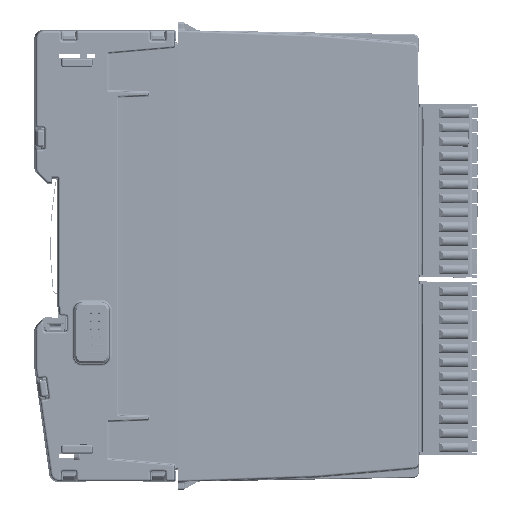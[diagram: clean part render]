
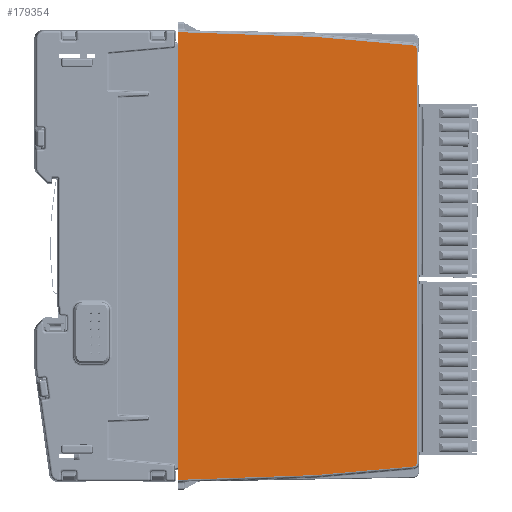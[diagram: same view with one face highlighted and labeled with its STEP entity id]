
A CAD part, left-side view. The second image highlights one B-rep face of the part: STEP entity #179354.
In plain terms, the highlighted planar face has unit normal (-1, -0.018, 0).
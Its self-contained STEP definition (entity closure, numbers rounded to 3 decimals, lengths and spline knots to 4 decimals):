
#16708=FACE_OUTER_BOUND('',#26652,.T.);
#26652=EDGE_LOOP('',(#141504,#141505,#141506,#141507,#141508,#141509,#141510,
#141511,#141512,#141513));
#42749=LINE('',#298390,#60395);
#42750=LINE('',#298392,#60396);
#42751=LINE('',#298394,#60397);
#42752=LINE('',#298396,#60398);
#42753=LINE('',#298398,#60399);
#42754=LINE('',#298402,#60400);
#42755=LINE('',#298406,#60401);
#42756=LINE('',#298407,#60402);
#60395=VECTOR('',#229341,39.3701);
#60396=VECTOR('',#229342,39.3701);
#60397=VECTOR('',#229343,39.3701);
#60398=VECTOR('',#229344,39.3701);
#60399=VECTOR('',#229345,39.3701);
#60400=VECTOR('',#229348,39.3701);
#60401=VECTOR('',#229351,39.3701);
#60402=VECTOR('',#229352,39.3701);
#66909=ELLIPSE('',#192662,0.0315,0.0315);
#66910=ELLIPSE('',#192663,0.0315,0.0315);
#78334=VERTEX_POINT('',#298388);
#78335=VERTEX_POINT('',#298389);
#78336=VERTEX_POINT('',#298391);
#78337=VERTEX_POINT('',#298393);
#78338=VERTEX_POINT('',#298395);
#78339=VERTEX_POINT('',#298397);
#78340=VERTEX_POINT('',#298399);
#78341=VERTEX_POINT('',#298401);
#78342=VERTEX_POINT('',#298403);
#78343=VERTEX_POINT('',#298405);
#100312=EDGE_CURVE('',#78334,#78335,#42749,.T.);
#100313=EDGE_CURVE('',#78336,#78335,#42750,.T.);
#100314=EDGE_CURVE('',#78336,#78337,#42751,.T.);
#100315=EDGE_CURVE('',#78337,#78338,#42752,.T.);
#100316=EDGE_CURVE('',#78338,#78339,#42753,.T.);
#100317=EDGE_CURVE('',#78339,#78340,#66909,.T.);
#100318=EDGE_CURVE('',#78340,#78341,#42754,.T.);
#100319=EDGE_CURVE('',#78341,#78342,#66910,.T.);
#100320=EDGE_CURVE('',#78342,#78343,#42755,.T.);
#100321=EDGE_CURVE('',#78343,#78334,#42756,.T.);
#141504=ORIENTED_EDGE('',*,*,#100312,.T.);
#141505=ORIENTED_EDGE('',*,*,#100313,.F.);
#141506=ORIENTED_EDGE('',*,*,#100314,.T.);
#141507=ORIENTED_EDGE('',*,*,#100315,.T.);
#141508=ORIENTED_EDGE('',*,*,#100316,.T.);
#141509=ORIENTED_EDGE('',*,*,#100317,.T.);
#141510=ORIENTED_EDGE('',*,*,#100318,.T.);
#141511=ORIENTED_EDGE('',*,*,#100319,.T.);
#141512=ORIENTED_EDGE('',*,*,#100320,.T.);
#141513=ORIENTED_EDGE('',*,*,#100321,.T.);
#161727=PLANE('',#192661);
#179354=ADVANCED_FACE('',(#16708),#161727,.T.);
#192661=AXIS2_PLACEMENT_3D('',#298387,#229339,#229340);
#192662=AXIS2_PLACEMENT_3D('',#298400,#229346,#229347);
#192663=AXIS2_PLACEMENT_3D('',#298404,#229349,#229350);
#229339=DIRECTION('center_axis',(-1.,-0.017,
0.));
#229340=DIRECTION('ref_axis',(-0.017,1.,0.));
#229341=DIRECTION('',(0.,0.,-1.));
#229342=DIRECTION('',(0.,0.,1.));
#229343=DIRECTION('',(0.,0.,-1.));
#229344=DIRECTION('',(0.017,-0.999,0.035));
#229345=DIRECTION('',(0.017,-0.996,0.087));
#229346=DIRECTION('center_axis',(-1.,-0.017,
0.));
#229347=DIRECTION('ref_axis',(0.017,-1.,0.));
#229348=DIRECTION('',(0.,0.,1.));
#229349=DIRECTION('center_axis',(-1.,-0.017,
0.));
#229350=DIRECTION('ref_axis',(0.017,-1.,0.));
#229351=DIRECTION('',(-0.017,0.996,0.087));
#229352=DIRECTION('',(-0.017,0.999,0.035));
#298387=CARTESIAN_POINT('Origin',(-0.0296,-0.489,
-2.0669));
#298388=CARTESIAN_POINT('',(-0.0227,-0.8827,0.1083));
#298389=CARTESIAN_POINT('',(-0.0227,-0.8827,-0.0312));
#298390=CARTESIAN_POINT('',(-0.0227,-0.8827,0.128));
#298391=CARTESIAN_POINT('',(-0.0227,-0.8827,-4.1027));
#298392=CARTESIAN_POINT('',(-0.0227,-0.8827,-7.5932));
#298393=CARTESIAN_POINT('',(-0.0227,-0.8827,-4.2421));
#298394=CARTESIAN_POINT('',(-0.0227,-0.8827,0.128));
#298395=CARTESIAN_POINT('',(0.0007,-2.2205,-4.1954));
#298396=CARTESIAN_POINT('',(-0.0282,-0.5654,-4.2532));
#298397=CARTESIAN_POINT('',(0.0174,-3.1772,-4.1117));
#298398=CARTESIAN_POINT('',(-0.0261,-0.6869,-4.3296));
#298399=CARTESIAN_POINT('',(0.0179,-3.2059,-4.0803));
#298400=CARTESIAN_POINT('Origin',(0.0173,-3.1744,
-4.0803));
#298401=CARTESIAN_POINT('',(0.0179,-3.2059,-0.0535));
#298402=CARTESIAN_POINT('',(0.0179,-3.2059,-0.0535));
#298403=CARTESIAN_POINT('',(0.0174,-3.1772,-0.0221));
#298404=CARTESIAN_POINT('Origin',(0.0173,-3.1744,
-0.0535));
#298405=CARTESIAN_POINT('',(0.0007,-2.2205,0.0616));
#298406=CARTESIAN_POINT('',(-0.0261,-0.6869,0.1957));
#298407=CARTESIAN_POINT('',(-0.0282,-0.5654,0.1194));
